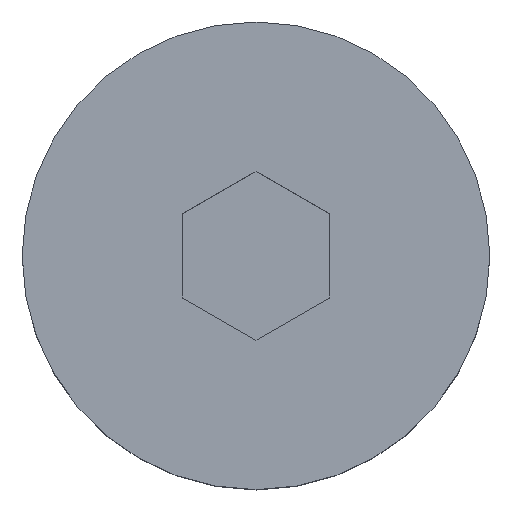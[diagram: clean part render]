
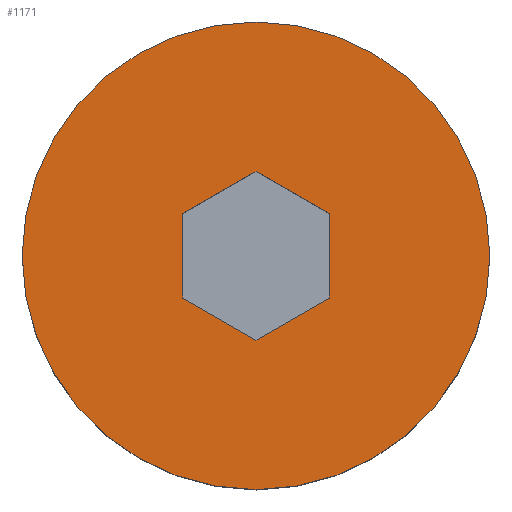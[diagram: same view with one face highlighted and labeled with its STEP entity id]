
A CAD part, top view. The second image highlights one B-rep face of the part: STEP entity #1171.
In plain terms, the highlighted planar face has unit normal (0, 0, 1).
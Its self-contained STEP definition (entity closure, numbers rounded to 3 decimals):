
#11 = DIRECTION ( 'NONE',  ( 0.866, 0.5, 0. ) ) ;
#43 = CARTESIAN_POINT ( 'NONE',  ( -8., 0., 7. ) ) ;
#57 = ORIENTED_EDGE ( 'NONE', *, *, #515, .F. ) ;
#59 = ORIENTED_EDGE ( 'NONE', *, *, #510, .F. ) ;
#67 = VERTEX_POINT ( 'NONE', #238 ) ;
#80 = VERTEX_POINT ( 'NONE', #300 ) ;
#101 = CARTESIAN_POINT ( 'NONE',  ( 8., 0., 7. ) ) ;
#125 = CARTESIAN_POINT ( 'NONE',  ( 2.5, 1.443, 7. ) ) ;
#140 = DIRECTION ( 'NONE',  ( 0., -1., 0. ) ) ;
#151 = CARTESIAN_POINT ( 'NONE',  ( -2.5, 0., 7. ) ) ;
#158 = CARTESIAN_POINT ( 'NONE',  ( -1.25, -2.165, 7. ) ) ;
#160 = CARTESIAN_POINT ( 'NONE',  ( -2.5, -1.443, 7. ) ) ;
#161 = VERTEX_POINT ( 'NONE', #101 ) ;
#172 = CARTESIAN_POINT ( 'NONE',  ( 2.5, -1.443, 7. ) ) ;
#178 = CARTESIAN_POINT ( 'NONE',  ( 2.5, 0., 7. ) ) ;
#181 = AXIS2_PLACEMENT_3D ( 'NONE', #1001, #276, #244 ) ;
#189 = DIRECTION ( 'NONE',  ( -0.866, 0.5, 0. ) ) ;
#210 = DIRECTION ( 'NONE',  ( 0.866, -0.5, 0. ) ) ;
#218 = CARTESIAN_POINT ( 'NONE',  ( 1.25, -2.165, 7. ) ) ;
#238 = CARTESIAN_POINT ( 'NONE',  ( 0., -2.887, 7. ) ) ;
#241 = AXIS2_PLACEMENT_3D ( 'NONE', #837, #833, #816 ) ;
#244 = DIRECTION ( 'NONE',  ( -1., 0., 0. ) ) ;
#276 = DIRECTION ( 'NONE',  ( 0., 0., -1. ) ) ;
#296 = CARTESIAN_POINT ( 'NONE',  ( 1.25, 2.165, 7. ) ) ;
#300 = CARTESIAN_POINT ( 'NONE',  ( -2.5, 1.443, 7. ) ) ;
#310 = VECTOR ( 'NONE', #210, 1000. ) ;
#323 = VECTOR ( 'NONE', #140, 1000. ) ;
#326 = DIRECTION ( 'NONE',  ( -0.866, -0.5, 0. ) ) ;
#330 = LINE ( 'NONE', #218, #410 ) ;
#339 = VERTEX_POINT ( 'NONE', #896 ) ;
#342 = VECTOR ( 'NONE', #326, 1000. ) ;
#354 = LINE ( 'NONE', #178, #432 ) ;
#361 = CARTESIAN_POINT ( 'NONE',  ( -1.25, 2.165, 7. ) ) ;
#398 = EDGE_CURVE ( 'NONE', #947, #161, #536, .T. ) ;
#409 = LINE ( 'NONE', #151, #323 ) ;
#410 = VECTOR ( 'NONE', #11, 1000. ) ;
#421 = LINE ( 'NONE', #158, #310 ) ;
#422 = VECTOR ( 'NONE', #189, 1000. ) ;
#426 = LINE ( 'NONE', #296, #422 ) ;
#432 = VECTOR ( 'NONE', #1123, 1000. ) ;
#436 = LINE ( 'NONE', #361, #342 ) ;
#443 = CIRCLE ( 'NONE', #181, 8. ) ;
#452 = FACE_BOUND ( 'NONE', #964, .T. ) ;
#488 = EDGE_CURVE ( 'NONE', #161, #947, #443, .T. ) ;
#493 = FACE_OUTER_BOUND ( 'NONE', #789, .T. ) ;
#499 = EDGE_CURVE ( 'NONE', #339, #80, #436, .T. ) ;
#508 = EDGE_CURVE ( 'NONE', #941, #339, #426, .T. ) ;
#510 = EDGE_CURVE ( 'NONE', #725, #941, #354, .T. ) ;
#515 = EDGE_CURVE ( 'NONE', #67, #725, #330, .T. ) ;
#523 = EDGE_CURVE ( 'NONE', #726, #67, #421, .T. ) ;
#525 = EDGE_CURVE ( 'NONE', #80, #726, #409, .T. ) ;
#536 = CIRCLE ( 'NONE', #241, 8. ) ;
#592 = AXIS2_PLACEMENT_3D ( 'NONE', #717, #646, #713 ) ;
#646 = DIRECTION ( 'NONE',  ( 0., 0., -1. ) ) ;
#713 = DIRECTION ( 'NONE',  ( -1., 0., 0. ) ) ;
#717 = CARTESIAN_POINT ( 'NONE',  ( 0., 0., 7. ) ) ;
#725 = VERTEX_POINT ( 'NONE', #172 ) ;
#726 = VERTEX_POINT ( 'NONE', #160 ) ;
#779 = PLANE ( 'NONE',  #592 ) ;
#789 = EDGE_LOOP ( 'NONE', ( #1017, #1018 ) ) ;
#816 = DIRECTION ( 'NONE',  ( -1., 0., 0. ) ) ;
#833 = DIRECTION ( 'NONE',  ( 0., 0., -1. ) ) ;
#837 = CARTESIAN_POINT ( 'NONE',  ( 0., 0., 7. ) ) ;
#896 = CARTESIAN_POINT ( 'NONE',  ( 0., 2.887, 7. ) ) ;
#941 = VERTEX_POINT ( 'NONE', #125 ) ;
#947 = VERTEX_POINT ( 'NONE', #43 ) ;
#964 = EDGE_LOOP ( 'NONE', ( #1020, #1023, #59, #57, #1036, #1048 ) ) ;
#1001 = CARTESIAN_POINT ( 'NONE',  ( 0., 0., 7. ) ) ;
#1017 = ORIENTED_EDGE ( 'NONE', *, *, #398, .F. ) ;
#1018 = ORIENTED_EDGE ( 'NONE', *, *, #488, .F. ) ;
#1020 = ORIENTED_EDGE ( 'NONE', *, *, #499, .F. ) ;
#1023 = ORIENTED_EDGE ( 'NONE', *, *, #508, .F. ) ;
#1036 = ORIENTED_EDGE ( 'NONE', *, *, #523, .F. ) ;
#1048 = ORIENTED_EDGE ( 'NONE', *, *, #525, .F. ) ;
#1123 = DIRECTION ( 'NONE',  ( 0., 1., 0. ) ) ;
#1171 = ADVANCED_FACE ( 'NONE', ( #493, #452 ), #779, .F. ) ;
